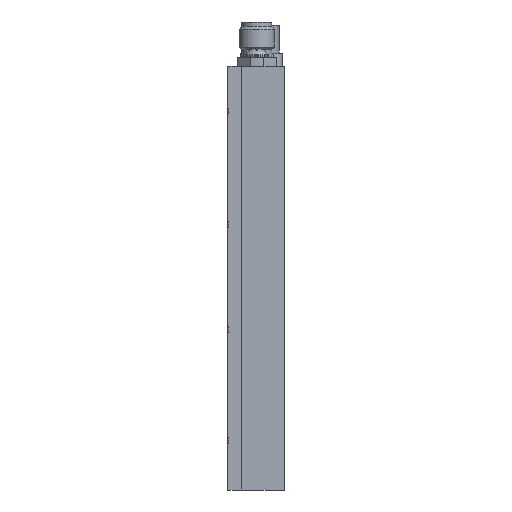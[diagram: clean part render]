
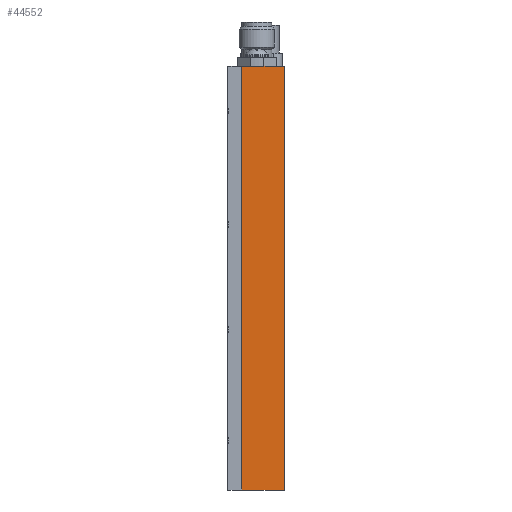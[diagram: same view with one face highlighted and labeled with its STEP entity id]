
A CAD part, left-side view. The second image highlights one B-rep face of the part: STEP entity #44552.
In plain terms, the highlighted planar face has unit normal (-1, 0, 0).
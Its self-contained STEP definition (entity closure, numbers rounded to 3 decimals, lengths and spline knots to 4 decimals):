
#889 = LINE ( 'NONE', #46792, #40757 ) ;
#7513 = ORIENTED_EDGE ( 'NONE', *, *, #45349, .T. ) ;
#8395 = VERTEX_POINT ( 'NONE', #17501 ) ;
#8922 = ORIENTED_EDGE ( 'NONE', *, *, #17556, .F. ) ;
#9920 = ORIENTED_EDGE ( 'NONE', *, *, #39176, .F. ) ;
#12120 = CARTESIAN_POINT ( 'NONE',  ( -0.0603, 1.1479, 0.9858 ) ) ;
#12505 = DIRECTION ( 'NONE',  ( 0., -1., 0. ) ) ;
#12741 = VECTOR ( 'NONE', #33935, 39.3701 ) ;
#13617 = DIRECTION ( 'NONE',  ( 0., -1., 0. ) ) ;
#13957 = CARTESIAN_POINT ( 'NONE',  ( -0.0603, 1.4491, 0.9858 ) ) ;
#15230 = VECTOR ( 'NONE', #18095, 39.3701 ) ;
#16807 = LINE ( 'NONE', #12120, #12741 ) ;
#17501 = CARTESIAN_POINT ( 'NONE',  ( -0.0603, 1.4491, 0.9858 ) ) ;
#17556 = EDGE_CURVE ( 'NONE', #8395, #50239, #23059, .T. ) ;
#17700 = CARTESIAN_POINT ( 'NONE',  ( -0.0603, 1.1479, 0.9858 ) ) ;
#17820 = EDGE_CURVE ( 'NONE', #8395, #43692, #54283, .T. ) ;
#18095 = DIRECTION ( 'NONE',  ( 0., 0., 1. ) ) ;
#18754 = CARTESIAN_POINT ( 'NONE',  ( -0.0603, 1.4491, 3.9858 ) ) ;
#21755 = FACE_OUTER_BOUND ( 'NONE', #36026, .T. ) ;
#22311 = PLANE ( 'NONE',  #34933 ) ;
#23059 = LINE ( 'NONE', #13957, #15230 ) ;
#26622 = VERTEX_POINT ( 'NONE', #34267 ) ;
#32035 = VECTOR ( 'NONE', #12505, 39.3701 ) ;
#33935 = DIRECTION ( 'NONE',  ( 0., 0., 1. ) ) ;
#34267 = CARTESIAN_POINT ( 'NONE',  ( -0.0603, 1.1479, 3.9858 ) ) ;
#34749 = DIRECTION ( 'NONE',  ( 1., 0., 0. ) ) ;
#34933 = AXIS2_PLACEMENT_3D ( 'NONE', #43061, #34749, #35287 ) ;
#35287 = DIRECTION ( 'NONE',  ( 0., 0., -1. ) ) ;
#36026 = EDGE_LOOP ( 'NONE', ( #7513, #9920, #8922, #36150 ) ) ;
#36150 = ORIENTED_EDGE ( 'NONE', *, *, #17820, .T. ) ;
#39176 = EDGE_CURVE ( 'NONE', #50239, #26622, #889, .T. ) ;
#40757 = VECTOR ( 'NONE', #13617, 39.3701 ) ;
#41822 = CARTESIAN_POINT ( 'NONE',  ( -0.0603, 1.4491, 0.9858 ) ) ;
#43061 = CARTESIAN_POINT ( 'NONE',  ( -0.0603, 1.4491, 0.9858 ) ) ;
#43692 = VERTEX_POINT ( 'NONE', #17700 ) ;
#44552 = ADVANCED_FACE ( 'NONE', ( #21755 ), #22311, .F. ) ;
#45349 = EDGE_CURVE ( 'NONE', #43692, #26622, #16807, .T. ) ;
#46792 = CARTESIAN_POINT ( 'NONE',  ( -0.0603, 1.4491, 3.9858 ) ) ;
#50239 = VERTEX_POINT ( 'NONE', #18754 ) ;
#54283 = LINE ( 'NONE', #41822, #32035 ) ;
